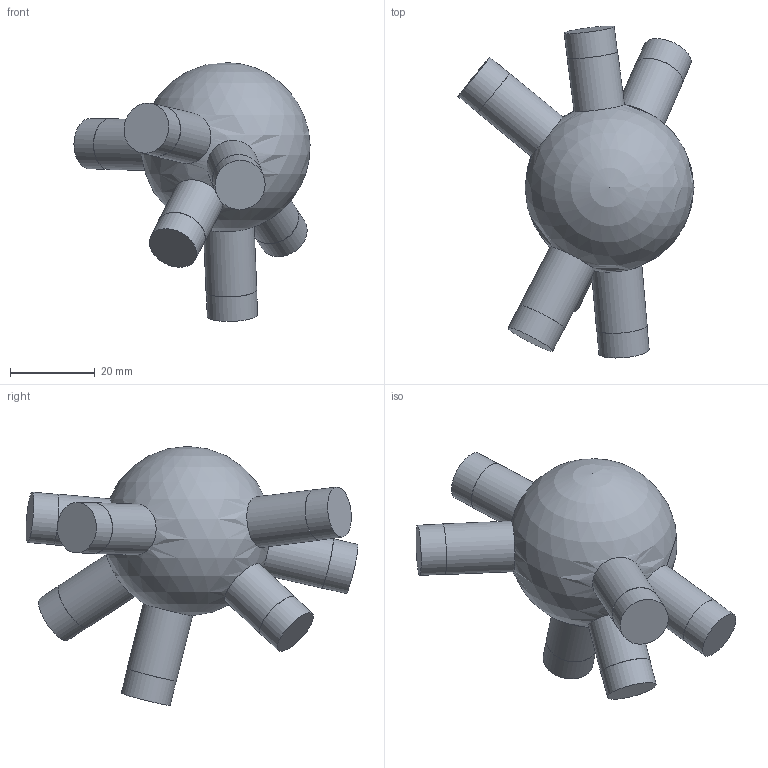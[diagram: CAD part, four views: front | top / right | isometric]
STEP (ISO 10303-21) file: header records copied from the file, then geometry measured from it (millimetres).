
FILE_DESCRIPTION(('Open CASCADE Model'),'2;1');
FILE_NAME('Open CASCADE Shape Model','2026-10-21T12:47:57',('Author'),( 'Open CASCADE'),'Open CASCADE STEP processor 7.9','Open CASCADE 7.9' ,'Unknown');
FILE_SCHEMA(('AUTOMOTIVE_DESIGN { 1 0 10303 214 1 1 1 1 }'));
Length unit declared in the file: millimetre
Products named in the file (1): Open CASCADE STEP translator 7.9 86
Bounding box: 55.77 x 78.4 x 61.17 mm (x, y, z)
Volume: 49381.6 mm3; surface area: 10433.9 mm2
Topology: 1 solids, 1 shells, 29 faces, 45 edges, 30 vertices
Faces by surface type: cylinder 14, plane 14, sphere 1
Full cylindrical faces by diameter (mm): 11.9 x7, 12 x7
Entity records: 1707 total; most frequent: CARTESIAN_POINT 669, DIRECTION 214, ORIENTED_EDGE 88, PCURVE 88, DEFINITIONAL_REPRESENTATION 88, LINE 73, VECTOR 73, AXIS2_PLACEMENT_3D 60
